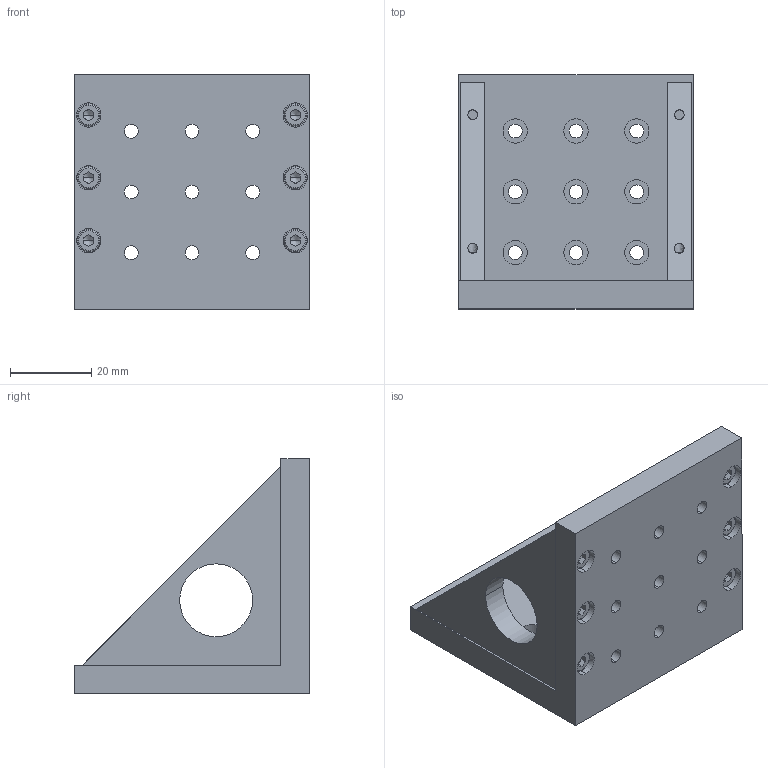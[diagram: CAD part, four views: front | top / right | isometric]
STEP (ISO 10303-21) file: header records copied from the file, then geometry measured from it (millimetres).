
FILE_DESCRIPTION((''),'2;1');
FILE_NAME('2AB38 SB.stp','2017-03-28T08:39:14',(''),(''),'Mechanical Desktop 2011','Mechanical Desktop 2011',', , ');
FILE_SCHEMA(('CONFIG_CONTROL_DESIGN'));
Length unit declared in the file: millimetre
Products named in the file (1): Product
Bounding box: 58 x 57.9 x 58 mm (x, y, z)
Volume: 51671.8 mm3; surface area: 24432.9 mm2
Topology: 1 solids, 17 shells, 630 faces, 1610 edges, 1054 vertices
Faces by surface type: bspline 290, plane 176, cylinder 68, cone 64, torus 32
Entity records: 24047 total; most frequent: CARTESIAN_POINT 9583, ORIENTED_EDGE 3140, DIRECTION 2852, EDGE_CURVE 1570, AXIS2_PLACEMENT_3D 1143, VERTEX_POINT 1054, CIRCLE 792, EDGE_LOOP 786
